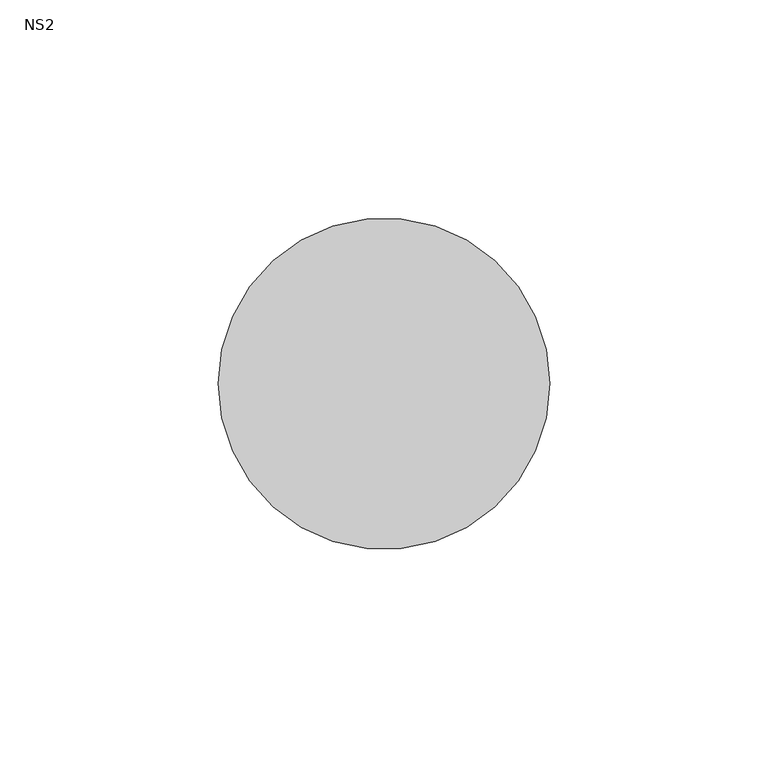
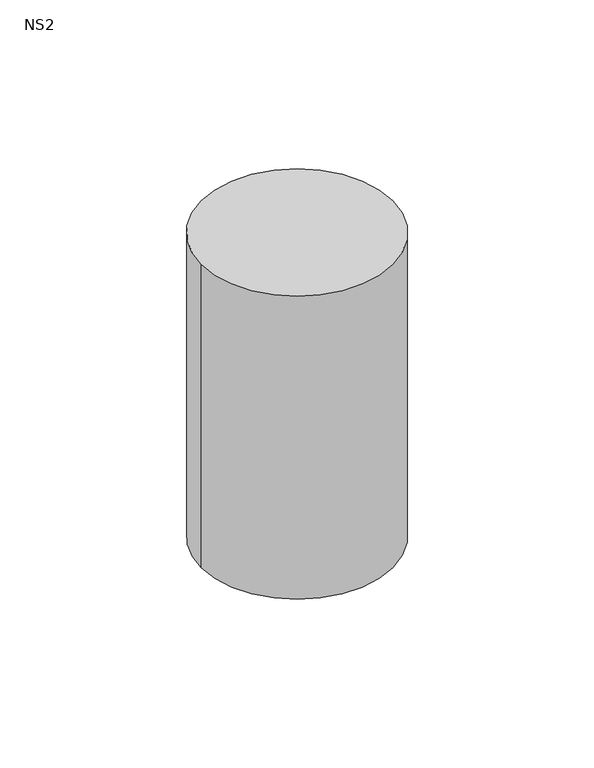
"""IFC4 building model written with IfcOpenShell, lengths in millimetres: unitary equipment geometry, ME_ST_UN_LipuJet-S-OD extension stage 1_ACO : NS2."""

import ifcopenshell
import ifcopenshell.guid

model = None  # the IFC model being written
_history = None  # IfcOwnerHistory: only IFC2X3 demands one
_inside = {}  # id of a spatial element -> (the spatial element, [elements in it])
_under = {}  # id of a project, library or spatial element -> (it, [spatial elements below it])
_declared = {}  # id of a project -> (the project, [libraries it declares])
_typed = {}  # id of a type object -> (the type object, [elements of that type])
_made_of = {}  # id of a material, layer set ... -> (it, [elements and type objects made of it])


def new_model(schema):
    """Start an empty IFC model of exactly this schema.

    Asked for "IFC4X3", IfcOpenShell would pick the latest addendum, in which some entities
    have other attributes; the version numbers below select the first issue.
    IFC2X3 requires an IfcOwnerHistory on every rooted entity: one is made here for all.
    """
    global model, _history
    if schema == "IFC4X3":
        model = ifcopenshell.file(schema_version=(4, 3, 0, 0))
    else:
        model = ifcopenshell.file(schema=schema)
    _inside.clear()
    _under.clear()
    _declared.clear()
    _typed.clear()
    _made_of.clear()
    _history = None
    if model.schema == "IFC2X3":
        org = make("IfcOrganization", Name="unknown")
        user = make(
            "IfcPersonAndOrganization",
            ThePerson=make("IfcPerson", FamilyName="unknown"),
            TheOrganization=org,
        )
        app = make(
            "IfcApplication",
            ApplicationDeveloper=org,
            Version="unknown",
            ApplicationFullName="unknown",
            ApplicationIdentifier="unknown",
        )
        _history = make(
            "IfcOwnerHistory",
            OwningUser=user,
            OwningApplication=app,
            ChangeAction="ADDED",
            CreationDate=0,
        )
    return model


def make(cls, **values):
    """One entity of the class cls with the attributes given. An attribute that is None is left unset."""
    return model.create_entity(
        cls, **{name: value for name, value in values.items() if value is not None}
    )


def rooted(cls, **values):
    """An entity with a GlobalId (a new one), such as an element, a storey or a relation."""
    return make(cls, GlobalId=ifcopenshell.guid.new(), OwnerHistory=_history, **values)


def si_unit(unit_type, name, prefix=None):
    """IfcSIUnit, for example si_unit("LENGTHUNIT", "METRE", prefix="MILLI")."""
    return make("IfcSIUnit", UnitType=unit_type, Prefix=prefix, Name=name)


def assignment(units):
    """IfcUnitAssignment: the units of a project."""
    return None if units is None else make("IfcUnitAssignment", Units=units)


def point(xyz):
    """IfcCartesianPoint."""
    return None if xyz is None else make("IfcCartesianPoint", Coordinates=xyz)


def direction(xyz):
    """IfcDirection."""
    return None if xyz is None else make("IfcDirection", DirectionRatios=xyz)


def frame(location, z_axis=None, x_axis=None):
    """IfcAxis2Placement3D, a coordinate frame: its origin and axes. An axis left out is left unset."""
    return make(
        "IfcAxis2Placement3D",
        Location=point(location),
        Axis=direction(z_axis),
        RefDirection=direction(x_axis),
    )


def frame_2d(location, x_axis=None):
    """IfcAxis2Placement2D, a coordinate frame in the plane: its origin and x axis."""
    return make(
        "IfcAxis2Placement2D", Location=point(location), RefDirection=direction(x_axis)
    )


def origin():
    """The frame at (0, 0, 0) with its axes left unset."""
    return frame((0.0, 0.0, 0.0))


def place(relative_to, where):
    """IfcLocalPlacement: puts the frame where relative to a parent placement (None: the world)."""
    return make(
        "IfcLocalPlacement", PlacementRelTo=relative_to, RelativePlacement=where
    )


def context(
    kind, dimensions, precision=None, world=None, true_north=None, identifier=None
):
    """IfcGeometricRepresentationContext, for example the 3D "Model" context."""
    return make(
        "IfcGeometricRepresentationContext",
        ContextIdentifier=identifier,
        ContextType=kind,
        CoordinateSpaceDimension=dimensions,
        Precision=precision,
        WorldCoordinateSystem=world,
        TrueNorth=true_north,
    )


def project(units=None, contexts=None):
    """IfcProject with its units and contexts."""
    return rooted(
        "IfcProject",
        Name="project",
        RepresentationContexts=contexts,
        UnitsInContext=assignment(units),
    )


def spatial(cls, under=None, at=None, **own):
    """A site, building, storey or space (cls), placed at a placement, below another one or the project."""
    s = rooted(cls, ObjectPlacement=at, **own)
    if under is not None:
        _under.setdefault(under.id(), (under, []))[1].append(s)
    return s


def circle_curve(where, radius):
    """IfcCircle in the frame where."""
    return make("IfcCircle", Position=where, Radius=radius)


def trimmed(basis, trim1, trim2, sense, master):
    """IfcTrimmedCurve: the piece of a basis curve between two trims."""
    return make(
        "IfcTrimmedCurve",
        BasisCurve=basis,
        Trim1=trim1,
        Trim2=trim2,
        SenseAgreement=sense,
        MasterRepresentation=master,
    )


def segment(curve, same_sense, transition):
    """IfcCompositeCurveSegment."""
    return make(
        "IfcCompositeCurveSegment",
        Transition=transition,
        SameSense=same_sense,
        ParentCurve=curve,
    )


def composite_curve(segments, self_intersect=None):
    """IfcCompositeCurve: segments joined end to end."""
    return make("IfcCompositeCurve", Segments=segments, SelfIntersect=self_intersect)


def outline(outer, holes=None, kind="AREA"):
    """IfcArbitraryClosedProfileDef: a profile drawn as a closed curve; with holes, ...WithVoids."""
    if holes is None:
        return make("IfcArbitraryClosedProfileDef", ProfileType=kind, OuterCurve=outer)
    return make(
        "IfcArbitraryProfileDefWithVoids",
        ProfileType=kind,
        OuterCurve=outer,
        InnerCurves=holes,
    )


def extrude(swept, where, along, depth):
    """IfcExtrudedAreaSolid: the profile swept, set in the frame where, extruded along a direction by depth."""
    return make(
        "IfcExtrudedAreaSolid",
        SweptArea=swept,
        Position=where,
        ExtrudedDirection=direction(along),
        Depth=depth,
    )


def shape(context_of_items, identifier, shape_type, items):
    """IfcShapeRepresentation: the items that make up one representation, for example the "Body"."""
    return make(
        "IfcShapeRepresentation",
        ContextOfItems=context_of_items,
        RepresentationIdentifier=identifier,
        RepresentationType=shape_type,
        Items=items,
    )


def source(mapping_origin, context_of_items, identifier, shape_type, items):
    """IfcRepresentationMap: a shape defined once, which mapped items show again and again."""
    return make(
        "IfcRepresentationMap",
        MappingOrigin=mapping_origin,
        MappedRepresentation=shape(context_of_items, identifier, shape_type, items),
    )


def transform(
    local_origin,
    x_axis=None,
    y_axis=None,
    z_axis=None,
    scale=None,
    scale2=None,
    scale3=None,
    uniform=True,
):
    """IfcCartesianTransformationOperator3D, or its non-uniform kind. x_axis, y_axis, z_axis: its Axis1, 2, 3."""
    if uniform:
        return make(
            "IfcCartesianTransformationOperator3D",
            Axis1=direction(x_axis),
            Axis2=direction(y_axis),
            LocalOrigin=point(local_origin),
            Scale=scale,
            Axis3=direction(z_axis),
        )
    return make(
        "IfcCartesianTransformationOperator3DnonUniform",
        Axis1=direction(x_axis),
        Axis2=direction(y_axis),
        LocalOrigin=point(local_origin),
        Scale=scale,
        Axis3=direction(z_axis),
        Scale2=scale2,
        Scale3=scale3,
    )


def mapped(mapping_source, mapping_target):
    """IfcMappedItem: shows the shape of a source again, moved by a transform."""
    return make(
        "IfcMappedItem", MappingSource=mapping_source, MappingTarget=mapping_target
    )


def made_of(thing, what):
    """Note that an element or type object is made of a material, layer set ...; save() writes the relation."""
    if what is not None:
        _made_of.setdefault(what.id(), (what, []))[1].append(thing)
    return thing


def element(
    cls,
    number,
    at=None,
    inside=None,
    cuts=None,
    type_object=None,
    material=None,
    context=None,
    identifier="Body",
    shape_type=None,
    held_by="IfcProductDefinitionShape",
    body=None,
    shapes=None,
    **own,
):
    """One element of the class cls, such as IfcWall. Its Tag is "e" and its number.

    at: its placement. inside: the storey or other place that contains it. cuts: it is an
    opening in that element (IfcRelVoidsElement). A single representation is given by context,
    identifier, shape_type and body (its items); several are given by shapes. held_by: the class
    of the entity that holds the representations. save() writes the other relations.
    """
    e = rooted(cls, Tag="e%d" % number, ObjectPlacement=at, **own)
    if body is not None:
        shapes = [shape(context, identifier, shape_type, body)]
    if shapes is not None:
        e.Representation = make(held_by, Representations=shapes)
    if inside is not None:
        _inside.setdefault(inside.id(), (inside, []))[1].append(e)
    if cuts is not None:
        rooted(
            "IfcRelVoidsElement", RelatingBuildingElement=cuts, RelatedOpeningElement=e
        )
    if type_object is not None:
        _typed.setdefault(type_object.id(), (type_object, []))[1].append(e)
    return made_of(e, material)


def aggregate(whole, parts):
    """IfcRelAggregates: a whole, such as a stair, and the parts it consists of."""
    return rooted("IfcRelAggregates", RelatingObject=whole, RelatedObjects=parts)


def save(model, path):
    """Write the relations noted so far, then the file.

    IfcRelAggregates (storeys below a building ...), IfcRelContainedInSpatialStructure (elements
    in a storey), IfcRelDefinesByType, IfcRelAssociatesMaterial and IfcRelDeclares: one each for
    every whole, place, type object, material and project.
    """
    for whole, parts in _under.values():
        aggregate(whole, parts)
    for where, things in _inside.values():
        rooted(
            "IfcRelContainedInSpatialStructure",
            RelatedElements=things,
            RelatingStructure=where,
        )
    for kind, things in _typed.values():
        rooted("IfcRelDefinesByType", RelatedObjects=things, RelatingType=kind)
    for what, things in _made_of.values():
        rooted("IfcRelAssociatesMaterial", RelatedObjects=things, RelatingMaterial=what)
    for by, libraries in _declared.values():
        rooted("IfcRelDeclares", RelatingContext=by, RelatedDefinitions=libraries)
    model.write(path)


def ns2_601247f1(model_context):
    return source(origin(), model_context, "Body", "SweptSolid", [
        extrude(outline(composite_curve([segment(trimmed(circle_curve(frame_2d((-304.5, 238.5395574)), 38.0), [point((-342.5, 238.5395574))], [point((-266.5, 238.5395574))], False, "CARTESIAN"), True, "CONTINUOUS"), segment(trimmed(circle_curve(frame_2d((-304.5, 238.5395574)), 38.0), [point((-266.5, 238.5395574))], [point((-342.5, 238.5395574))], False, "CARTESIAN"), True, "CONTINUOUS")], self_intersect=False)), frame((0.0, 0.0, 1260.0), z_axis=(0.0, 0.0, 1.0), x_axis=(1.0, 0.0, 0.0)), (0.0, 0.0, 1.0), 127.0),
    ])


if __name__ == "__main__":
    model = new_model("IFC4")
    model_context = context("Model", 3, world=origin())
    ifc_project = project(units=[si_unit("LENGTHUNIT", "METRE", prefix="MILLI")], contexts=[model_context])
    site = spatial("IfcSite", under=ifc_project)
    building = spatial("IfcBuilding", under=site)
    placement = place(None, origin())
    ns2_shape = ns2_601247f1(model_context)
    element("IfcUnitaryEquipment", 1, ObjectType="ME_ST_UN_LipuJet-S-OD extension stage 1_ACO : NS2", at=placement, inside=building, context=model_context, shape_type="MappedRepresentation", body=[
        mapped(ns2_shape, transform((0.0, 0.0, 0.0), x_axis=(1.0, 0.0, 0.0), y_axis=(0.0, 1.0, 0.0), z_axis=(0.0, 0.0, 1.0))),
    ])
    save(model, "model.ifc")
